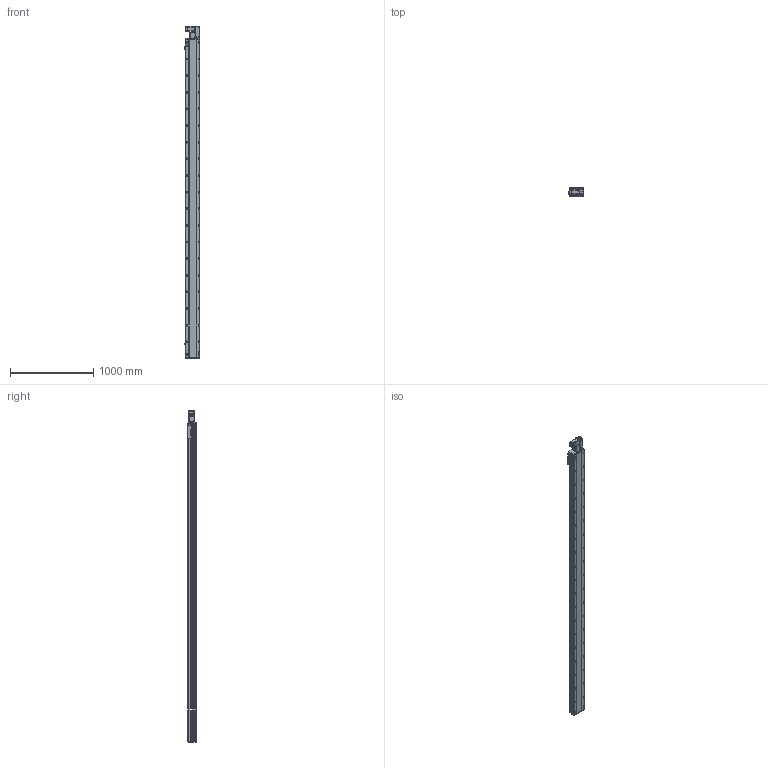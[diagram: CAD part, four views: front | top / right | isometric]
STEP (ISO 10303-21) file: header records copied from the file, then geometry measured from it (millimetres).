
FILE_DESCRIPTION (( 'STEP AP214' ), '1' );
FILE_NAME ('RTB17S-XX-3550-R-M40-C4.STEP', '2025-12-11T08:02:00', ( '' ), ( '' ), 'SwSTEP 2.0', 'SolidWorks 2018', '' );
FILE_SCHEMA (( 'AUTOMOTIVE_DESIGN' ));
Length unit declared in the file: millimetre
Products named in the file (14): RTB17-R-011菁釱^RTB17S-XX-XX-R-M40-C4; RTB14-L-018P^RTB17S-R-々湍釱蚾饜-400W_RTB17S-XX-XX-R-M40-C4; RTB17S-L-007奻裔^RTB17S-XX-XX-R-M40-C4; RTB17S-L-014-T20--々湍釱^RTB17S-R-々湍釱蚾饜-400W_RTB17S-XX-XX-R-M40-C4; RTH13-BL-012覜茼え俋离^RTB17S-XX-XX-R-M40-C4; RTB14-L-008-M20--萇儂啣^RTB17S-R-々湍釱蚾饜-400W_RTB17S-XX-XX-R-M40-C4; RTB14-L-017P^RTB17S-R-々湍釱蚾饜-400W_RTB17S-XX-XX-R-M40-C4; RTB17S-L-001耜醱啣^RTB17S-XX-XX-R-M40-C4; RTB17S-XX-3550-R-M40-C4; RTB14-L-005P--轴承塑胶压盖^RTB17S-R-皮带座装配-400W_RTB17S-XX-XX-R-M40-C4; RTB17S-R-々湍釱蚾饜-400W^RTB17S-XX-XX-R-M40-C4; OMRON EE-SX672 传感器^RTB17S-XX-XX-R-M40-C4; RTB17S-L-004佪裝蹟譫蟀諉釱^RTB17S-XX-XX-R-M40-C4; 400W侜督萇儂^RTB17S-XX-XX-R-M40-C4
Assembly tree (16 placements, depth 3):
  RTB17S-XX-3550-R-M40-C4
    RTB17-R-011菁釱^RTB17S-XX-XX-R-M40-C4
    RTB17S-L-007奻裔^RTB17S-XX-XX-R-M40-C4
    OMRON EE-SX672 传感器^RTB17S-XX-XX-R-M40-C4  x3
    RTB17S-L-001耜醱啣^RTB17S-XX-XX-R-M40-C4
    400W侜督萇儂^RTB17S-XX-XX-R-M40-C4
    RTB17S-L-004佪裝蹟譫蟀諉釱^RTB17S-XX-XX-R-M40-C4
    RTH13-BL-012覜茼え俋离^RTB17S-XX-XX-R-M40-C4
    RTB17S-R-々湍釱蚾饜-400W^RTB17S-XX-XX-R-M40-C4
      RTB17S-L-014-T20--々湍釱^RTB17S-R-々湍釱蚾饜-400W_RTB17S-XX-XX-R-M40-C4
      RTB14-L-005P--轴承塑胶压盖^RTB17S-R-皮带座装配-400W_RTB17S-XX-XX-R-M40-C4
      RTB14-L-008-M20--萇儂啣^RTB17S-R-々湍釱蚾饜-400W_RTB17S-XX-XX-R-M40-C4
      RTB14-L-017P^RTB17S-R-々湍釱蚾饜-400W_RTB17S-XX-XX-R-M40-C4  x2
      RTB14-L-018P^RTB17S-R-々湍釱蚾饜-400W_RTB17S-XX-XX-R-M40-C4
Bounding box: 183.5 x 108 x 3991 mm (x, y, z)
Volume: 33169372.2 mm3; surface area: 3765757.9 mm2
Topology: 15 solids, 15 shells, 2413 faces, 6789 edges, 4437 vertices
Faces by surface type: plane 1094, cylinder 871, bspline 301, cone 139, torus 8
Entity records: 72617 total; most frequent: CARTESIAN_POINT 20794, ORIENTED_EDGE 10422, DIRECTION 9566, EDGE_CURVE 5211, VERTEX_POINT 3425, AXIS2_PLACEMENT_3D 3355, LINE 2856, VECTOR 2856
